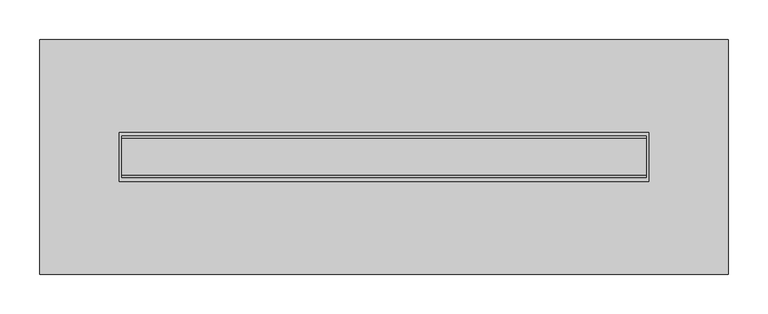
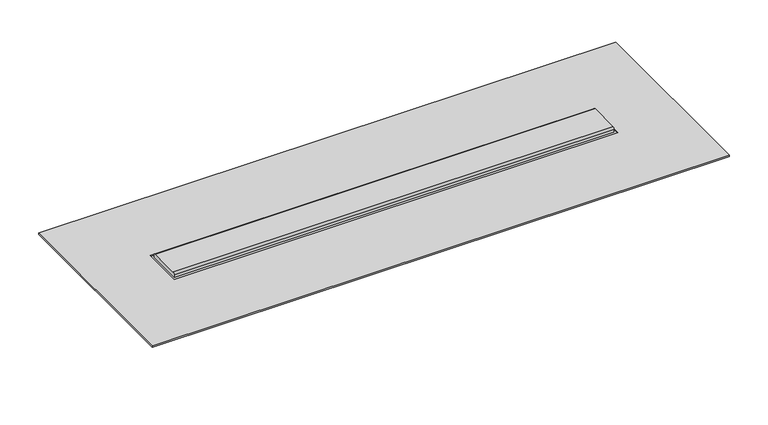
"""IFC4 building model written with IfcOpenShell, lengths in millimetres: sanitary terminal geometry, NLRS_PF_52_UN_Compact TAF Modulo_Easydrain : Compact TAF Modulo Classic."""

from ifc_helpers import new_model, si_unit, point, frame, frame_2d, origin, place, context, project, spatial, polyline, circle_curve, ellipse_curve, trimmed, segment, composite_curve, outline, extrude, source, transform, mapped, element, save
from ifc_brep_helpers import plane_surface, cylinder_surface, advanced_brep


def sanitary_terminal_87b3114c(model_context):
    return source(origin(), model_context, "Body", "SolidModel", [
        extrude(outline(composite_curve([segment(polyline([(-23.0, 0.0), (23.0, 0.0)]), True, "CONTINUOUS"), segment(trimmed(circle_curve(frame_2d((23.0, -3.0)), 3.0), [point((23.0, 0.0))], [point((26.0, -3.0))], False, "CARTESIAN"), True, "CONTINUOUS"), segment(polyline([(26.0, -3.0), (26.0, -7.0), (-26.0, -7.0), (-26.0, -3.0)]), True, "CONTINUOUS"), segment(trimmed(circle_curve(frame_2d((-23.0, -3.0)), 3.0), [point((-26.0, -3.0))], [point((-23.0, 0.0))], False, "CARTESIAN"), True, "CONTINUOUS")], self_intersect=False)), frame((-229.5, 0.0, 0.0), z_axis=(1.0, 0.0, 0.0), x_axis=(0.0, 1.0, 0.0)), (0.0, 0.0, 1.0), 659.0),
        extrude(outline(polyline([(532.5, 147.5), (532.5, -147.5), (-332.5, -147.5), (-332.5, 147.5), (532.5, 147.5)]), holes=[polyline([(432.5, 31.0), (-232.5, 31.0), (-232.5, -31.0), (432.5, -31.0), (432.5, 31.0)])]), frame((0.0, 0.0, -8.0), z_axis=(0.0, 0.0, 1.0), x_axis=(1.0, 0.0, 0.0)), (0.0, 0.0, 1.0), 2.0),
        advanced_brep(
        [(-232.5, -31.0, -25.0), (-10.0, -31.0, -27.0), (-10.0, -31.0, -70.0), (210.0, -31.0, -70.0), (210.0, -31.0, -27.0), (432.5, -31.0, -25.0), (432.5, -31.0, -9.0), (-232.5, -31.0, -9.0), (100.0, -31.0, -25.0), (100.0, -31.0, -65.0), (432.5, 31.0, -25.0), (210.0, 31.0, -27.0), (210.0, 31.0, -70.0), (-10.0, 31.0, -70.0), (-10.0, 31.0, -27.0), (-232.5, 31.0, -25.0), (-232.5, 31.0, -9.0), (432.5, 31.0, -9.0), (-212.5, 0.0, -25.1797753), (-172.5, 0.0, -25.5393258), (432.5, 30.0, -9.0), (432.5, -30.0, -9.0), (450.0, 47.5, -7.0), (-250.0, 47.5, -7.0), (-250.0, -64.5, -7.0), (450.0, -64.5, -7.0), (-232.5, -30.0, -9.0), (-232.5, 30.0, -9.0), (372.5, 0.0, -25.5393258), (412.5, 0.0, -25.1797753), (100.0, -50.0, -25.0), (100.0, -50.0, -65.0), (450.0, 47.5, -9.0), (450.0, -64.5, -9.0), (-250.0, -64.5, -9.0), (-250.0, 47.5, -9.0), (-212.5, 0.0, -70.0), (-172.5, 0.0, -70.0), (372.5, 0.0, -70.0), (412.5, 0.0, -70.0)],
        [
            (0, 1),
            (1, 2),
            (2, 3),
            (3, 4),
            (4, 5),
            (5, 6),
            (6, 7),
            (7, 0),
            (8, 9, circle_curve(frame((100.0, -31.0, -45.0), z_axis=(0.0, 1.0, 0.0), x_axis=(0.0, 0.0, -1.0)), 20.0)),
            (9, 8, circle_curve(frame((100.0, -31.0, -45.0), z_axis=(0.0, 1.0, 0.0), x_axis=(0.0, 0.0, -1.0)), 20.0)),
            (10, 11),
            (11, 12),
            (12, 13),
            (13, 14),
            (14, 15),
            (15, 16),
            (16, 17),
            (17, 10),
            (0, 15),
            (14, 1),
            (18, 19, ellipse_curve(frame((-192.5, 0.0, -25.3595506), z_axis=(0.00898840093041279, 0.0, 0.9999596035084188), x_axis=(-0.9999596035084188, 0.0, 0.008988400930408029)), 20.000808, 20.0)),
            (19, 18, ellipse_curve(frame((-192.5, 0.0, -25.3595506), z_axis=(0.00898840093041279, 0.0, 0.9999596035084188), x_axis=(-0.9999596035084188, 0.0, 0.008988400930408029)), 20.000808, 20.0)),
            (5, 10),
            (17, 20),
            (20, 21),
            (21, 6),
            (22, 23),
            (23, 24),
            (24, 25),
            (25, 22),
            (7, 26),
            (26, 27),
            (27, 16),
            (13, 2),
            (12, 3),
            (11, 4),
            (28, 29, ellipse_curve(frame((392.5, 0.0, -25.3595506), z_axis=(-0.00898840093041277, 0.0, 0.9999596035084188), x_axis=(0.9999596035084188, 0.0, 0.00898840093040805)), 20.000808, 20.0)),
            (29, 28, ellipse_curve(frame((392.5, 0.0, -25.3595506), z_axis=(-0.00898840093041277, 0.0, 0.9999596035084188), x_axis=(0.9999596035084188, 0.0, 0.00898840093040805)), 20.000808, 20.0)),
            (30, 31, circle_curve(frame((100.0, -50.0, -45.0), z_axis=(0.0, -1.0, 0.0), x_axis=(0.0, 0.0, -1.0)), 20.0)),
            (31, 30, circle_curve(frame((100.0, -50.0, -45.0), z_axis=(0.0, -1.0, 0.0), x_axis=(0.0, 0.0, -1.0)), 20.0)),
            (31, 9),
            (8, 30),
            (32, 33),
            (33, 34),
            (34, 35),
            (35, 32),
            (22, 32),
            (35, 23),
            (34, 24),
            (33, 25),
            (36, 37, circle_curve(frame((-192.5, 0.0, -70.0), z_axis=(0.0, 0.0, -1.0), x_axis=(1.0, 0.0, 0.0)), 20.0)),
            (37, 36, circle_curve(frame((-192.5, 0.0, -70.0), z_axis=(0.0, 0.0, -1.0), x_axis=(1.0, 0.0, 0.0)), 20.0)),
            (38, 39, circle_curve(frame((392.5, 0.0, -70.0), z_axis=(0.0, 0.0, -1.0), x_axis=(1.0, 0.0, 0.0)), 20.0)),
            (39, 38, circle_curve(frame((392.5, 0.0, -70.0), z_axis=(0.0, 0.0, -1.0), x_axis=(1.0, 0.0, 0.0)), 20.0)),
            (37, 19),
            (18, 36),
            (39, 29),
            (28, 38),
        ],
        [
            plane_surface(frame((-232.5, -31.0, -25.0), z_axis=(0.0, -1.0, 0.0), x_axis=(0.9999596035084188, 0.0, -0.00898840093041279))),
            plane_surface(frame((-232.5, 31.0, -25.0), z_axis=(0.0, 1.0, 0.0), x_axis=(-0.9999596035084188, 0.0, 0.00898840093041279))),
            plane_surface(frame((-232.5, -31.0, -25.0), z_axis=(-0.00898840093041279, 0.0, -0.9999596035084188), x_axis=(0.0, 1.0, 0.0))),
            plane_surface(frame((432.5, -31.0, -25.0), z_axis=(1.0, 0.0, 0.0), x_axis=(0.0, 1.0, 0.0))),
            plane_surface(frame((432.5, -31.0, -7.0), z_axis=(0.0, 0.0, 1.0), x_axis=(0.0, 1.0, 0.0))),
            plane_surface(frame((-232.5, -31.0, -7.0), z_axis=(-1.0, 0.0, 0.0), x_axis=(0.0, 1.0, 0.0))),
            plane_surface(frame((-10.0, -31.0, -27.0), z_axis=(-1.0, 0.0, 0.0), x_axis=(0.0, 1.0, 0.0))),
            plane_surface(frame((-10.0, -31.0, -70.0), z_axis=(0.0, 0.0, -1.0), x_axis=(0.0, 1.0, 0.0))),
            plane_surface(frame((210.0, -31.0, -70.0), z_axis=(1.0, 0.0, 0.0), x_axis=(0.0, 1.0, 0.0))),
            plane_surface(frame((210.0, -31.0, -27.0), z_axis=(0.00898840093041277, 0.0, -0.9999596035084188), x_axis=(0.0, 1.0, 0.0))),
            plane_surface(frame((100.0, -50.0, -45.0), z_axis=(0.0, -1.0, 0.0), x_axis=(1.0, 0.0, 0.0))),
            cylinder_surface(frame((100.0, 0.0, -45.0), z_axis=(0.0, 1.0, 0.0), x_axis=(0.0, 0.0, -1.0)), 20.0),
            plane_surface(frame((432.5, 30.0, -9.0), z_axis=(0.0, 0.0, -1.0), x_axis=(0.0, 1.0, 0.0))),
            plane_surface(frame((450.0, 47.5, -7.0), z_axis=(0.0, 1.0, 0.0), x_axis=(0.0, 0.0, -1.0))),
            plane_surface(frame((-250.0, 47.5, -7.0), z_axis=(-1.0, 0.0, 0.0), x_axis=(0.0, 0.0, -1.0))),
            plane_surface(frame((-250.0, -64.5, -7.0), z_axis=(0.0, -1.0, 0.0), x_axis=(0.0, 0.0, -1.0))),
            plane_surface(frame((450.0, -64.5, -7.0), z_axis=(1.0, 0.0, 0.0), x_axis=(0.0, 0.0, -1.0))),
            plane_surface(frame((-172.5, 0.0, -70.0), z_axis=(0.0, 0.0, -1.0), x_axis=(0.0, -1.0, 0.0))),
            cylinder_surface(frame((-192.5, 0.0, -70.0), z_axis=(0.0, 0.0, 1.0), x_axis=(1.0, 0.0, 0.0)), 20.0),
            cylinder_surface(frame((392.5, 0.0, 0.0), z_axis=(0.0, 0.0, 1.0), x_axis=(1.0, 0.0, 0.0)), 20.0),
        ],
        [
            (0, [[1, 2, 3, 4, 5, 6, 7, 8], [9, 10]]),
            (1, [[11, 12, 13, 14, 15, 16, 17, 18]]),
            (2, [[-1, 19, -15, 20], [21, 22]]),
            (3, [[23, -18, 24, 25, 26, -6]]),
            (4, [[27, 28, 29, 30]]),
            (5, [[-19, -8, 31, 32, 33, -16]]),
            (6, [[-2, -20, -14, 34]]),
            (7, [[-3, -34, -13, 35]]),
            (8, [[-4, -35, -12, 36]]),
            (9, [[-5, -36, -11, -23], [37, 38]]),
            (10, [[39, 40]]),
            (11, [[-40, 41, -9, 42]]),
            (11, [[-39, -42, -10, -41]]),
            (12, [[43, 44, 45, 46], [-7, -26, -25, -24, -17, -33, -32, -31]]),
            (13, [[-27, 47, -46, 48]]),
            (14, [[-28, -48, -45, 49]]),
            (15, [[-29, -49, -44, 50]]),
            (16, [[-30, -50, -43, -47]]),
            (17, [[51, 52]]),
            (17, [[53, 54]]),
            (18, [[-52, 55, -21, 56]]),
            (18, [[-51, -56, -22, -55]]),
            (19, [[-54, 57, -37, 58]]),
            (19, [[-53, -58, -38, -57]]),
        ],
    ),
    ])


if __name__ == "__main__":
    model = new_model("IFC4")
    model_context = context("Model", 3, world=origin())
    ifc_project = project(units=[si_unit("LENGTHUNIT", "METRE", prefix="MILLI")], contexts=[model_context])
    site = spatial("IfcSite", under=ifc_project)
    building = spatial("IfcBuilding", under=site)
    placement = place(None, origin())
    sanitary_terminal_shape = sanitary_terminal_87b3114c(model_context)
    element("IfcSanitaryTerminal", 1, ObjectType="NLRS_PF_52_UN_Compact TAF Modulo_Easydrain : Compact TAF Modulo Classic", at=placement, inside=building, context=model_context, shape_type="MappedRepresentation", body=[
        mapped(sanitary_terminal_shape, transform((0.0, 0.0, 0.0), x_axis=(1.0, 0.0, 0.0), y_axis=(0.0, 1.0, 0.0), z_axis=(0.0, 0.0, 1.0))),
    ])
    save(model, "model.ifc")
